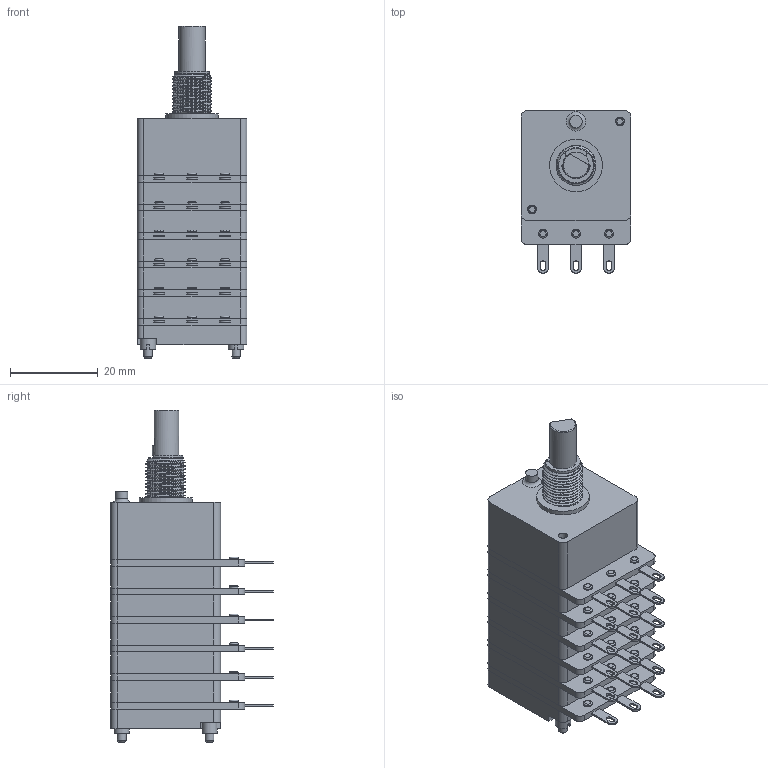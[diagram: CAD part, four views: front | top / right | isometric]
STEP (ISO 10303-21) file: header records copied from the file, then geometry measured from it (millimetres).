
FILE_DESCRIPTION(('FreeCAD Model'),'2;1');
FILE_NAME('Open CASCADE Shape Model','2024-02-27T11:22:41',(''),(''), 'Open CASCADE STEP processor 7.6','FreeCAD','Unknown');
FILE_SCHEMA(('AUTOMOTIVE_DESIGN { 1 0 10303 214 1 1 1 1 }'));
Length unit declared in the file: millimetre
Products named in the file (1): 6cp25xx-f20
Bounding box: 25 x 37 x 75.5 mm (x, y, z)
Volume: 33996.2 mm3; surface area: 11030.7 mm2
Topology: 1 solids, 31 shells, 610 faces, 1332 edges, 836 vertices
Faces by surface type: plane 314, cylinder 231, bspline 38, torus 21, cone 6
Full cylindrical faces by diameter (mm): 1.9 x2, 2 x46, 2.2 x22, 2.8 x1, 3.5 x2, 4.5 x6, 5.4 x1, 6 x1, 6.05 x1, 8 x1, 9.09 x11, 12 x1
Entity records: 44399 total; most frequent: CARTESIAN_POINT 16185, DIRECTION 4759, ORIENTED_EDGE 2662, PCURVE 2662, DEFINITIONAL_REPRESENTATION 2662, LINE 2382, VECTOR 2382, EDGE_CURVE 1331
